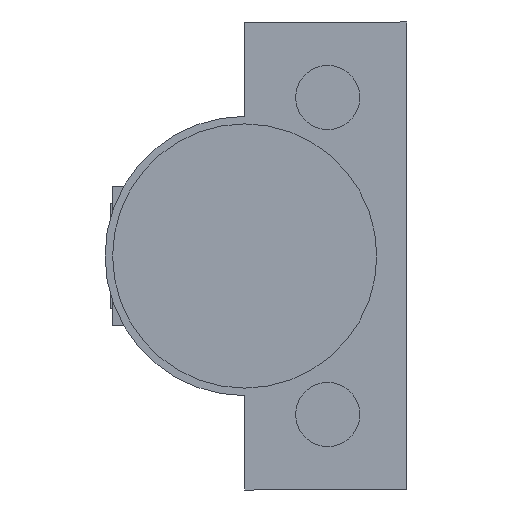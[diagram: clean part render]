
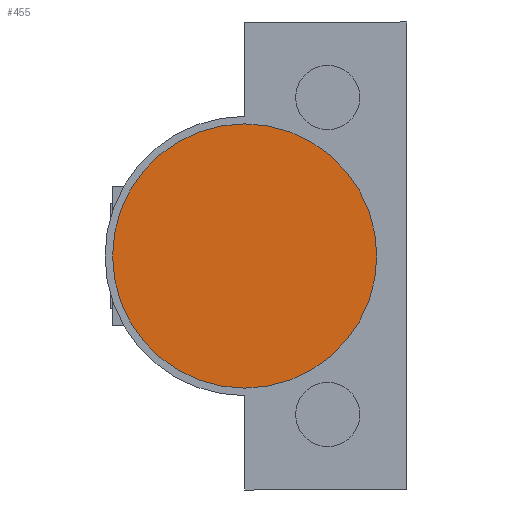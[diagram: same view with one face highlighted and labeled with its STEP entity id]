
A CAD part, front view. The second image highlights one B-rep face of the part: STEP entity #455.
In plain terms, the highlighted planar face has unit normal (0, -1, 0).
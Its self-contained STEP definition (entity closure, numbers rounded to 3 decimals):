
#55 = DIRECTION ( 'NONE',  ( 1., 0., 0. ) ) ;
#125 = EDGE_LOOP ( 'NONE', ( #173, #1057 ) ) ;
#127 = CARTESIAN_POINT ( 'NONE',  ( 21.5, -51.1, 0. ) ) ;
#173 = ORIENTED_EDGE ( 'NONE', *, *, #207, .T. ) ;
#207 = EDGE_CURVE ( 'NONE', #974, #1634, #1159, .T. ) ;
#455 = ADVANCED_FACE ( 'NONE', ( #924 ), #1477, .T. ) ;
#457 = CIRCLE ( 'NONE', #600, 17.5 ) ;
#600 = AXIS2_PLACEMENT_3D ( 'NONE', #1272, #620, #55 ) ;
#620 = DIRECTION ( 'NONE',  ( 0., -1., 0. ) ) ;
#652 = EDGE_CURVE ( 'NONE', #1634, #974, #457, .T. ) ;
#746 = DIRECTION ( 'NONE',  ( 1., 0., 0. ) ) ;
#790 = CARTESIAN_POINT ( 'NONE',  ( 4., -51.1, 0. ) ) ;
#880 = AXIS2_PLACEMENT_3D ( 'NONE', #1562, #1424, #746 ) ;
#924 = FACE_OUTER_BOUND ( 'NONE', #125, .T. ) ;
#974 = VERTEX_POINT ( 'NONE', #790 ) ;
#1057 = ORIENTED_EDGE ( 'NONE', *, *, #652, .T. ) ;
#1159 = CIRCLE ( 'NONE', #880, 17.5 ) ;
#1224 = CARTESIAN_POINT ( 'NONE',  ( 39., -51.1, 0. ) ) ;
#1272 = CARTESIAN_POINT ( 'NONE',  ( 21.5, -51.1, 0. ) ) ;
#1390 = AXIS2_PLACEMENT_3D ( 'NONE', #127, #1507, #1633 ) ;
#1424 = DIRECTION ( 'NONE',  ( 0., -1., 0. ) ) ;
#1477 = PLANE ( 'NONE',  #1390 ) ;
#1507 = DIRECTION ( 'NONE',  ( 0., -1., 0. ) ) ;
#1562 = CARTESIAN_POINT ( 'NONE',  ( 21.5, -51.1, 0. ) ) ;
#1633 = DIRECTION ( 'NONE',  ( 1., 0., 0. ) ) ;
#1634 = VERTEX_POINT ( 'NONE', #1224 ) ;
